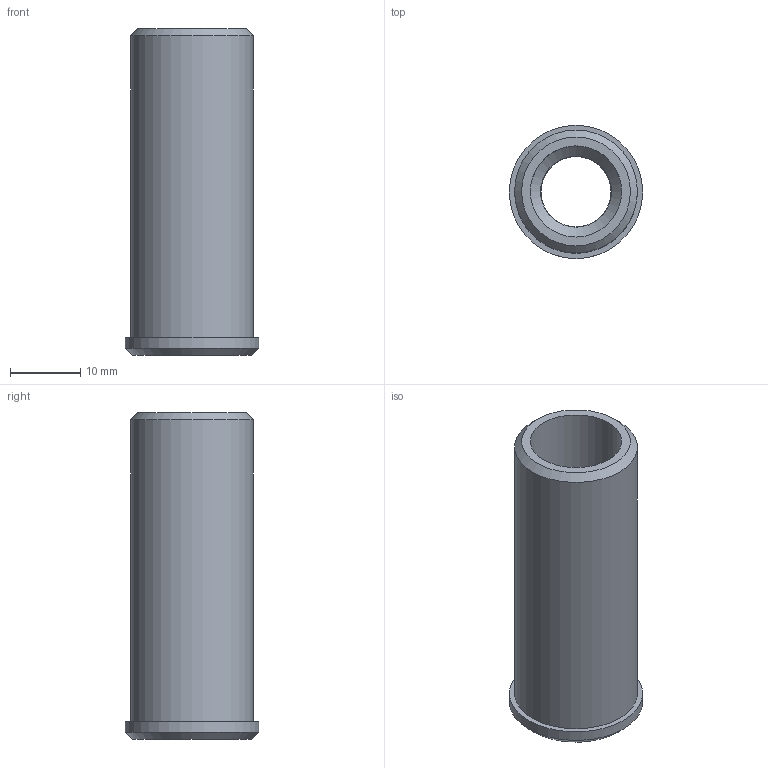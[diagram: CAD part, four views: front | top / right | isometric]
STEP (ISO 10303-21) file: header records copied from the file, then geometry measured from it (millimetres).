
FILE_DESCRIPTION((''),'2;1');
FILE_NAME('E:\catalogue and flyer\Profile catalogue 2015\Accessories ACC info\Accessories ACC step file 31Mar16\ACC-Sleeve M12.stp','2016-04-07T15:14:00',('h029'),(''),'Autodesk Inventor 11','Autodesk Inventor 11','');
FILE_SCHEMA(('AUTOMOTIVE_DESIGN { 1 0 10303 214 1 1 1 1 }'));
Length unit declared in the file: millimetre
Products named in the file (1): Sleeve-M12
Bounding box: 19 x 19 x 46.5 mm (x, y, z)
Volume: 6394.2 mm3; surface area: 4545.8 mm2
Topology: 1 solids, 1 shells, 11 faces, 18 edges, 11 vertices
Faces by surface type: cone 3, cylinder 3, plane 3, bspline 2
Full cylindrical faces by diameter (mm): 13 x1, 17.5 x1, 19 x1
Entity records: 264 total; most frequent: CARTESIAN_POINT 54, DIRECTION 42, ORIENTED_EDGE 22, EDGE_LOOP 22, AXIS2_PLACEMENT_3D 21, VERTEX_POINT 11, CIRCLE 11, EDGE_CURVE 11
